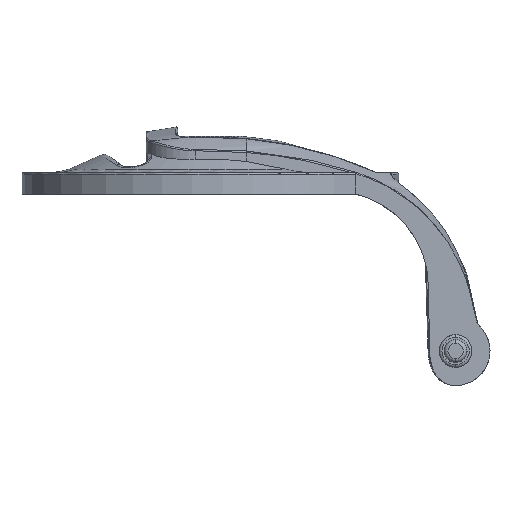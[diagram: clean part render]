
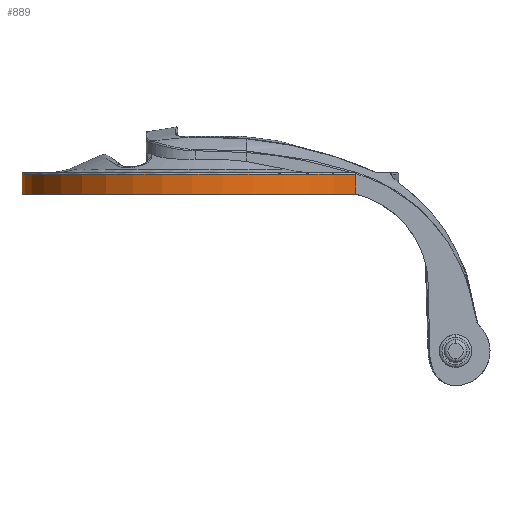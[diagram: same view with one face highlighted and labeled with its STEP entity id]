
A CAD part, front view. The second image highlights one B-rep face of the part: STEP entity #889.
In plain terms, the highlighted conical face has half-angle 1 degrees and reference radius 52 mm.
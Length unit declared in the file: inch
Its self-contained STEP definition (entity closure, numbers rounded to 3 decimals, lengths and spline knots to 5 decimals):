
#889 = ADVANCED_FACE ( 'NONE', ( #28697 ), #27802, .T. ) ;
#1664 = DIRECTION ( 'NONE',  ( 0., 0., 1. ) ) ;
#2639 = ORIENTED_EDGE ( 'NONE', *, *, #21219, .F. ) ;
#2945 = CARTESIAN_POINT ( 'NONE',  ( -2.04689, 0., 0.21619 ) ) ;
#3551 = VERTEX_POINT ( 'NONE', #11259 ) ;
#4208 = DIRECTION ( 'NONE',  ( 1., 0., 0. ) ) ;
#5941 = VERTEX_POINT ( 'NONE', #12788 ) ;
#6335 = VERTEX_POINT ( 'NONE', #2945 ) ;
#6431 = CIRCLE ( 'NONE', #17193, 2.04689 ) ;
#8449 = DIRECTION ( 'NONE',  ( -1., 0., 0. ) ) ;
#8589 = CARTESIAN_POINT ( 'NONE',  ( 1.57768, -1.29818, 0. ) ) ;
#9125 = ORIENTED_EDGE ( 'NONE', *, *, #24888, .F. ) ;
#10179 = DIRECTION ( 'NONE',  ( -0.017, 0., 1. ) ) ;
#10335 = CARTESIAN_POINT ( 'NONE',  ( -2.04724, 0., 0.23622 ) ) ;
#11189 = DIRECTION ( 'NONE',  ( 0., 0., 1. ) ) ;
#11259 = CARTESIAN_POINT ( 'NONE',  ( 1.57768, -1.29818, 0. ) ) ;
#12788 = CARTESIAN_POINT ( 'NONE',  ( 1.58179, -1.29913, 0.21619 ) ) ;
#13180 = AXIS2_PLACEMENT_3D ( 'NONE', #14359, #1664, #21126 ) ;
#13267 = CARTESIAN_POINT ( 'NONE',  ( 1.58179, -1.29913, 0.21619 ) ) ;
#13587 = EDGE_CURVE ( 'NONE', #22226, #3551, #24454, .T. ) ;
#14359 = CARTESIAN_POINT ( 'NONE',  ( 0., 0., 0. ) ) ;
#14984 = AXIS2_PLACEMENT_3D ( 'NONE', #16026, #11189, #8449 ) ;
#15011 = LINE ( 'NONE', #10335, #19231 ) ;
#16026 = CARTESIAN_POINT ( 'NONE',  ( 0., 0., 0.23622 ) ) ;
#17193 = AXIS2_PLACEMENT_3D ( 'NONE', #21581, #19481, #4208 ) ;
#17196 = EDGE_LOOP ( 'NONE', ( #9125, #27785, #2639, #26331 ) ) ;
#19231 = VECTOR ( 'NONE', #10179, 39.37008 ) ;
#19481 = DIRECTION ( 'NONE',  ( 0., 0., -1. ) ) ;
#21126 = DIRECTION ( 'NONE',  ( 1., 0., 0. ) ) ;
#21219 = EDGE_CURVE ( 'NONE', #5941, #3551, #31698, .T. ) ;
#21581 = CARTESIAN_POINT ( 'NONE',  ( 0., 0., 0.21619 ) ) ;
#22226 = VERTEX_POINT ( 'NONE', #26625 ) ;
#23233 = CARTESIAN_POINT ( 'NONE',  ( 1.57905, -1.2985, 0.07206 ) ) ;
#24454 = CIRCLE ( 'NONE', #13180, 2.04312 ) ;
#24888 = EDGE_CURVE ( 'NONE', #22226, #6335, #15011, .T. ) ;
#26331 = ORIENTED_EDGE ( 'NONE', *, *, #27440, .T. ) ;
#26625 = CARTESIAN_POINT ( 'NONE',  ( -2.04312, 0., 0. ) ) ;
#27440 = EDGE_CURVE ( 'NONE', #5941, #6335, #6431, .T. ) ;
#27785 = ORIENTED_EDGE ( 'NONE', *, *, #13587, .T. ) ;
#27802 = CONICAL_SURFACE ( 'NONE', #14984, 2.04724, 0.017 ) ;
#28697 = FACE_OUTER_BOUND ( 'NONE', #17196, .T. ) ;
#30146 = CARTESIAN_POINT ( 'NONE',  ( 1.58042, -1.29881, 0.14413 ) ) ;
#31698 = B_SPLINE_CURVE_WITH_KNOTS ( 'NONE', 3,
 ( #13267, #30146, #23233, #8589 ),
 .UNSPECIFIED., .F., .F.,
 ( 4, 4 ),
 ( 0.03668, 0.04218 ),
 .UNSPECIFIED. ) ;
